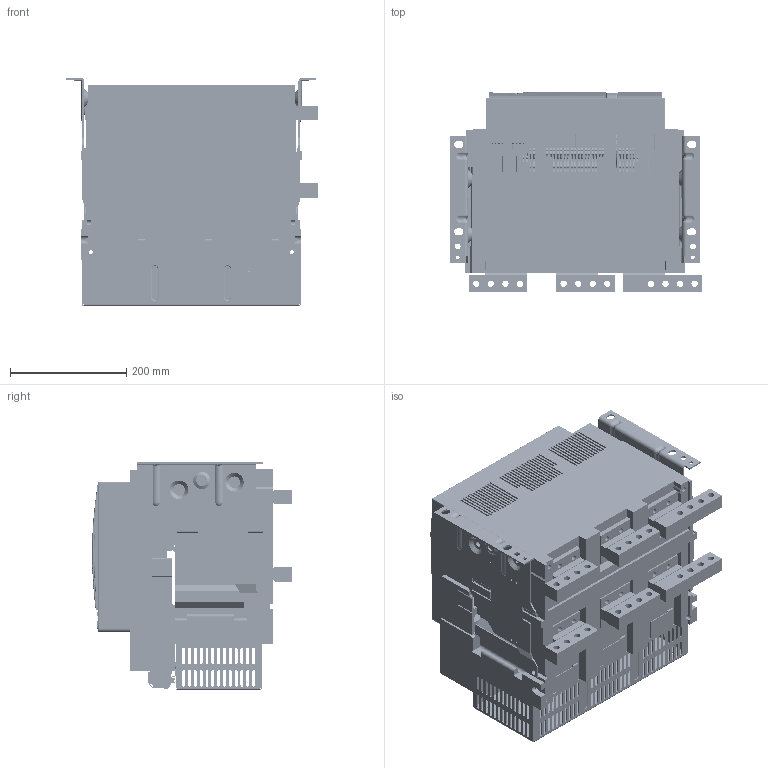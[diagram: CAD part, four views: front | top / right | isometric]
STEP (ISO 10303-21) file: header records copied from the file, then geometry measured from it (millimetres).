
FILE_DESCRIPTION(/* description */ (''),/* implementation_level */ '2;1');
FILE_NAME(/* name */ 'C:/Users/carlos.gonzalez/Documents/ADRIAN_TEMP_DRAWING/Ex9A40_3P_4000_F_PB_Drawing.step',/* time_stamp */ '2021-10-14T13:07:30+02:00',/* author */ (''),/* organization */ (''),/* preprocessor_version */ 'ST-DEVELOPER v18.1',/* originating_system */ 'Autodesk Translation Framework v10.10.0.1391',/* authorisation */ '');
FILE_SCHEMA (('AUTOMOTIVE_DESIGN { 1 0 10303 214 3 1 1 }'));
Products named in the file (38): Ex9A40_3P_4000_F; Auxiliary terminals; JIEXIANDUANZI-35_ASM; 8260A0306112; 3044526_UT25_TWIN_BU; 0800886_E-NS-35-N; 081808_UC_TM_2_5; Main terminals; 8580A0412024; 8580A0412023; Internal components; 8060A0306108; 8ZTD_123_166_2; 4000-DIBAN-3P; 8300A0306007; 8ZTD_123_167_2; 8060A0306109; 4000-JIZUO-3P; Cover; 5300A1526114_ASM; 8300A0101127_34; 8235A0101009_2; 8253A0101002_7; 8320A0101121-0814_3; 8860A0724001_4; 8ZTD_282_1203_AF1_6; 8ZTD_282_1203_AF2_6; 8253A0101107-1_5; 8253A0101106-1_5; 8860A1424194-1_1; 8282A0820014; 8253A0101010; 8253A0101108-1; Smart unit; 8320A0101004; 8860A1424009; 8005A0101008; 5043A0101001
Assembly tree (143 placements, depth 4):
  Ex9A40_3P_4000_F
    Auxiliary terminals
      JIEXIANDUANZI-35_ASM
        8260A0306112
        3044526_UT25_TWIN_BU  x35
        0800886_E-NS-35-N  x2
        081808_UC_TM_2_5  x68
    Main terminals
      8580A0412024  x2
      8580A0412023  x4
    Internal components
      8060A0306108
      8ZTD_123_166_2
      4000-DIBAN-3P
      8300A0306007
      8ZTD_123_167_2
      8060A0306109
      4000-JIZUO-3P
    Cover
      5300A1526114_ASM
        8300A0101127_34
        8235A0101009_2
        8253A0101002_7
        8320A0101121-0814_3
        8860A0724001_4
        8ZTD_282_1203_AF1_6
        8ZTD_282_1203_AF2_6
        8253A0101107-1_5
        8253A0101106-1_5
        8860A1424194-1_1
        8282A0820014
      8253A0101010
      8253A0101108-1
    Smart unit
      8320A0101004
      8860A1424009
      8005A0101008
      5043A0101001
Bounding box: 432.5 x 343.49 x 392 mm (x, y, z)
Volume: 19507398.1 mm3; surface area: 2427427.3 mm2
Topology: 136 solids, 160 shells, 10617 faces, 29873 edges, 19677 vertices
Faces by surface type: plane 6549, cylinder 3375, bspline 332, torus 236, sphere 72, cone 53
Full cylindrical faces by diameter (mm): 2 x7, 2.1 x2, 2.5 x3, 2.6 x2, 3 x11, 3.5 x11, 4 x12, 4.2 x4, 4.3 x1, 4.5 x3, 5 x16, 5.008 x1, 5.5 x4, 6 x5, 6.1 x1, 6.2 x4, 6.5 x3, 7 x6, 8 x4, 8.2 x4, 8.3 x2, 8.5 x27, 9 x2, 10 x14, 11 x24, 12 x5, 12.5 x1, 14 x1, 15 x1, 16 x1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
Entity records: 201672 total; most frequent: CARTESIAN_POINT 81258, ORIENTED_EDGE 25246, DIRECTION 23630, EDGE_CURVE 12648, LINE 8640, VECTOR 8640, VERTEX_POINT 8215, AXIS2_PLACEMENT_3D 7495
